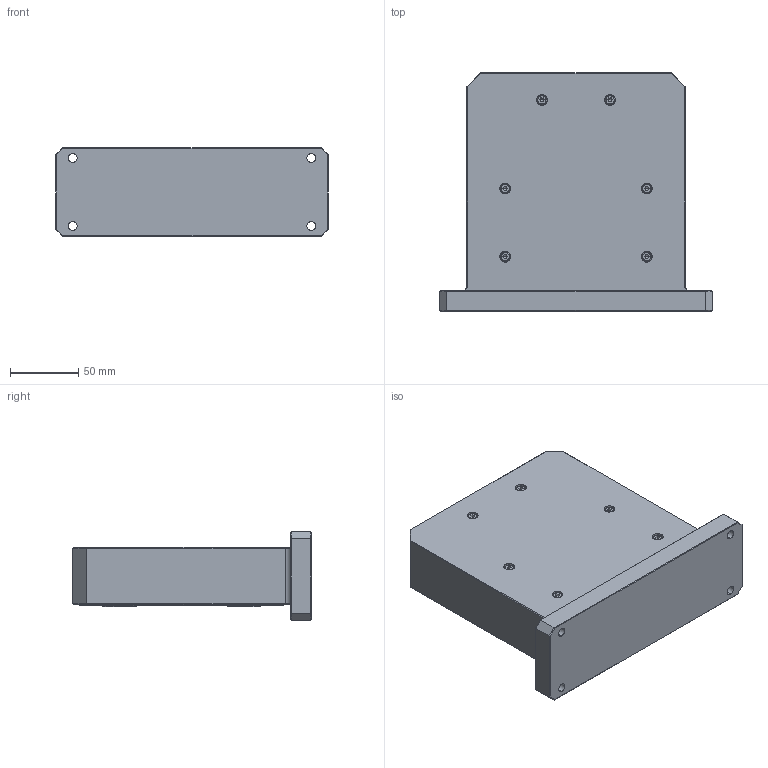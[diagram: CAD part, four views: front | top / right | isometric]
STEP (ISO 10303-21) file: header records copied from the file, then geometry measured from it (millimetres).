
FILE_DESCRIPTION (( 'STEP AP203' ), '1' );
FILE_NAME ('S23A.ZT0S-A蚾饜极(諦誧)24.08.30.STEP', '2024-11-14T06:25:11', ( 'Windows User' ), ( 'P R C' ), 'SwSTEP 2.0', 'SolidWorks 2016', '' );
FILE_SCHEMA (( 'CONFIG_CONTROL_DESIGN' ));
Length unit declared in the file: millimetre
Products named in the file (1): S23A.ZT0S-A蚾饜极(諦誧)24.08.30
Bounding box: 200 x 175 x 65 mm (x, y, z)
Volume: 696357.4 mm3; surface area: 170640.8 mm2
Topology: 11 solids, 11 shells, 496 faces, 1171 edges, 711 vertices
Faces by surface type: plane 226, cylinder 156, cone 96, torus 18
Entity records: 14311 total; most frequent: DIRECTION 2637, CARTESIAN_POINT 2408, ORIENTED_EDGE 2306, EDGE_CURVE 1153, AXIS2_PLACEMENT_3D 994, VERTEX_POINT 711, VECTOR 649, LINE 649
